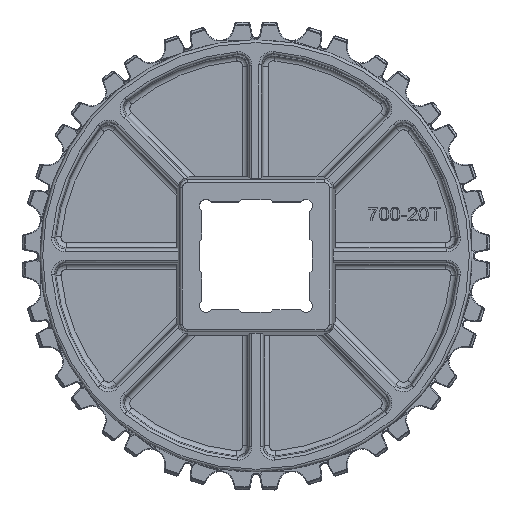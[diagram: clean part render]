
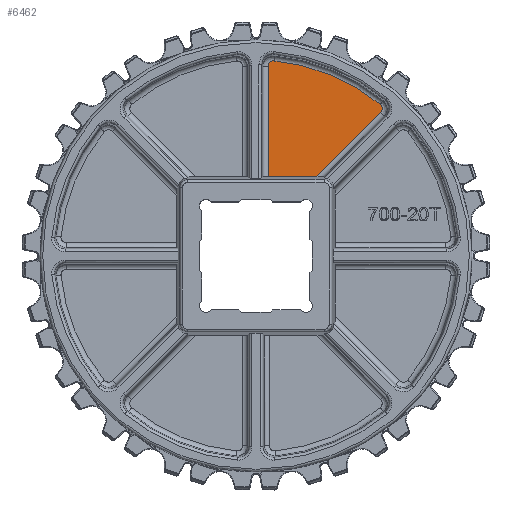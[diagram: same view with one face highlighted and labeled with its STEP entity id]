
A CAD part, top view. The second image highlights one B-rep face of the part: STEP entity #6462.
In plain terms, the highlighted planar face has unit normal (0, 0, 1).
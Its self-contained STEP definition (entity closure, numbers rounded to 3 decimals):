
#2461=B_SPLINE_CURVE_WITH_KNOTS('',3,(#69399,#69400,#69401,#69402,#69403,
#69404,#69405,#69406,#69407,#69408,#69409,#69410,#69411,#69412,#69413,#69414),
 .UNSPECIFIED.,.F.,.F.,(4,3,3,3,3,4),(0.,0.203,0.407,
0.61,0.812,1.),.UNSPECIFIED.);
#2467=B_SPLINE_CURVE_WITH_KNOTS('',3,(#69548,#69549,#69550,#69551,#69552,
#69553,#69554,#69555,#69556,#69557,#69558,#69559,#69560,#69561,#69562,#69563),
 .UNSPECIFIED.,.F.,.F.,(4,3,3,3,3,4),(0.,0.203,0.405,
0.607,0.808,1.),.UNSPECIFIED.);
#4278=FACE_OUTER_BOUND('',#10559,.T.);
#6462=ADVANCED_FACE('',(#4278),#7412,.T.);
#7412=PLANE('',#38628);
#8614=CIRCLE('',#38621,73.27);
#10559=EDGE_LOOP('',(#20150,#20151,#20152,#20153,#20154,#20155));
#20150=ORIENTED_EDGE('',*,*,#30182,.T.);
#20151=ORIENTED_EDGE('',*,*,#30185,.T.);
#20152=ORIENTED_EDGE('',*,*,#30177,.T.);
#20153=ORIENTED_EDGE('',*,*,#30143,.T.);
#20154=ORIENTED_EDGE('',*,*,#30130,.T.);
#20155=ORIENTED_EDGE('',*,*,#26429,.F.);
#23189=VERTEX_POINT('',#50854);
#23190=VERTEX_POINT('',#50856);
#25376=VERTEX_POINT('',#69240);
#25381=VERTEX_POINT('',#69398);
#25407=VERTEX_POINT('',#69527);
#25410=VERTEX_POINT('',#69535);
#26429=EDGE_CURVE('',#23189,#23190,#31604,.T.);
#30130=EDGE_CURVE('',#25376,#23190,#32980,.T.);
#30143=EDGE_CURVE('',#25381,#25376,#2461,.T.);
#30177=EDGE_CURVE('',#25407,#25381,#8614,.T.);
#30182=EDGE_CURVE('',#23189,#25410,#33001,.T.);
#30185=EDGE_CURVE('',#25410,#25407,#2467,.T.);
#31604=LINE('',#50855,#33683);
#32980=LINE('',#69239,#35059);
#33001=LINE('',#69536,#35080);
#33683=VECTOR('',#40147,1.);
#35059=VECTOR('',#47151,1.);
#35080=VECTOR('',#47238,1.);
#38621=AXIS2_PLACEMENT_3D('',#69526,#47227,#47228);
#38628=AXIS2_PLACEMENT_3D('',#69564,#47244,#47245);
#40147=DIRECTION('',(-1.,0.,0.));
#47151=DIRECTION('',(0.,-1.,0.));
#47227=DIRECTION('',(0.,0.,1.));
#47228=DIRECTION('',(1.,0.,0.));
#47238=DIRECTION('',(0.707,0.707,0.));
#47244=DIRECTION('',(0.,0.,1.));
#47245=DIRECTION('',(1.,0.,0.));
#50854=CARTESIAN_POINT('',(22.586,29.652,2.499));
#50855=CARTESIAN_POINT('',(0.,29.652,2.499));
#50856=CARTESIAN_POINT('',(4.495,29.652,2.499));
#69239=CARTESIAN_POINT('',(4.495,40.521,2.499));
#69240=CARTESIAN_POINT('',(4.495,70.94,2.499));
#69398=CARTESIAN_POINT('',(6.711,72.962,2.499));
#69399=CARTESIAN_POINT('',(6.711,72.962,2.499));
#69400=CARTESIAN_POINT('',(6.484,72.983,2.499));
#69401=CARTESIAN_POINT('',(6.251,72.965,2.499));
#69402=CARTESIAN_POINT('',(6.03,72.91,2.499));
#69403=CARTESIAN_POINT('',(5.808,72.855,2.499));
#69404=CARTESIAN_POINT('',(5.594,72.76,2.499));
#69405=CARTESIAN_POINT('',(5.403,72.635,2.499));
#69406=CARTESIAN_POINT('',(5.214,72.51,2.499));
#69407=CARTESIAN_POINT('',(5.044,72.35,2.499));
#69408=CARTESIAN_POINT('',(4.907,72.169,2.499));
#69409=CARTESIAN_POINT('',(4.77,71.989,2.499));
#69410=CARTESIAN_POINT('',(4.663,71.782,2.499));
#69411=CARTESIAN_POINT('',(4.593,71.567,2.499));
#69412=CARTESIAN_POINT('',(4.528,71.366,2.499));
#69413=CARTESIAN_POINT('',(4.495,71.152,2.499));
#69414=CARTESIAN_POINT('',(4.495,70.94,2.499));
#69526=CARTESIAN_POINT('',(0.,0.,2.499));
#69527=CARTESIAN_POINT('',(46.447,56.668,2.499));
#69535=CARTESIAN_POINT('',(46.595,53.661,2.499));
#69536=CARTESIAN_POINT('',(-3.533,3.533,2.499));
#69548=CARTESIAN_POINT('',(46.595,53.661,2.499));
#69549=CARTESIAN_POINT('',(46.756,53.823,2.499));
#69550=CARTESIAN_POINT('',(46.892,54.014,2.499));
#69551=CARTESIAN_POINT('',(46.991,54.219,2.499));
#69552=CARTESIAN_POINT('',(47.09,54.425,2.499));
#69553=CARTESIAN_POINT('',(47.155,54.65,2.499));
#69554=CARTESIAN_POINT('',(47.18,54.877,2.499));
#69555=CARTESIAN_POINT('',(47.204,55.102,2.499));
#69556=CARTESIAN_POINT('',(47.191,55.335,2.499));
#69557=CARTESIAN_POINT('',(47.139,55.556,2.499));
#69558=CARTESIAN_POINT('',(47.088,55.777,2.499));
#69559=CARTESIAN_POINT('',(46.998,55.991,2.499));
#69560=CARTESIAN_POINT('',(46.877,56.182,2.499));
#69561=CARTESIAN_POINT('',(46.761,56.365,2.499));
#69562=CARTESIAN_POINT('',(46.614,56.531,2.499));
#69563=CARTESIAN_POINT('',(46.447,56.668,2.499));
#69564=CARTESIAN_POINT('',(0.,0.,2.499));
